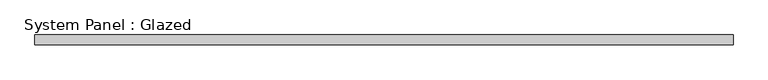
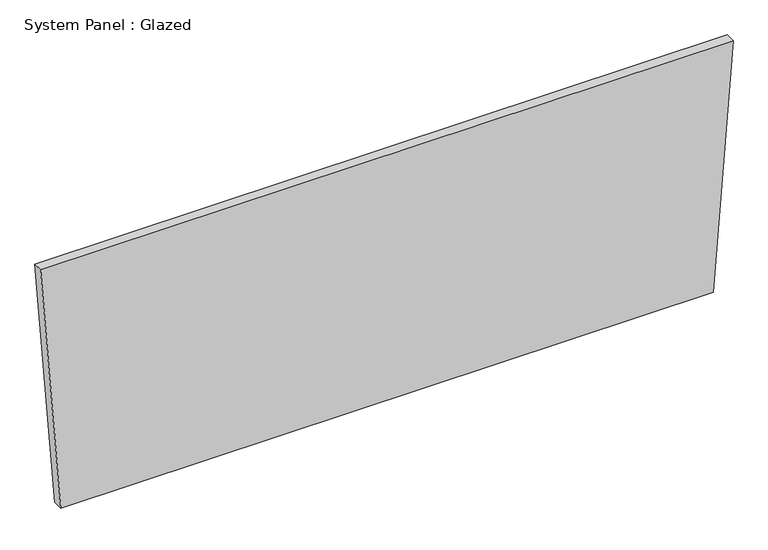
"""IFC4 building model written with IfcOpenShell, lengths in millimetres: plate geometry, System Panel : Glazed."""

import ifcopenshell
import ifcopenshell.guid

model = None  # the IFC model being written
_history = None  # IfcOwnerHistory: only IFC2X3 demands one
_inside = {}  # id of a spatial element -> (the spatial element, [elements in it])
_under = {}  # id of a project, library or spatial element -> (it, [spatial elements below it])
_declared = {}  # id of a project -> (the project, [libraries it declares])
_typed = {}  # id of a type object -> (the type object, [elements of that type])
_made_of = {}  # id of a material, layer set ... -> (it, [elements and type objects made of it])


def new_model(schema):
    """Start an empty IFC model of exactly this schema.

    Asked for "IFC4X3", IfcOpenShell would pick the latest addendum, in which some entities
    have other attributes; the version numbers below select the first issue.
    IFC2X3 requires an IfcOwnerHistory on every rooted entity: one is made here for all.
    """
    global model, _history
    if schema == "IFC4X3":
        model = ifcopenshell.file(schema_version=(4, 3, 0, 0))
    else:
        model = ifcopenshell.file(schema=schema)
    _inside.clear()
    _under.clear()
    _declared.clear()
    _typed.clear()
    _made_of.clear()
    _history = None
    if model.schema == "IFC2X3":
        org = make("IfcOrganization", Name="unknown")
        user = make(
            "IfcPersonAndOrganization",
            ThePerson=make("IfcPerson", FamilyName="unknown"),
            TheOrganization=org,
        )
        app = make(
            "IfcApplication",
            ApplicationDeveloper=org,
            Version="unknown",
            ApplicationFullName="unknown",
            ApplicationIdentifier="unknown",
        )
        _history = make(
            "IfcOwnerHistory",
            OwningUser=user,
            OwningApplication=app,
            ChangeAction="ADDED",
            CreationDate=0,
        )
    return model


def make(cls, **values):
    """One entity of the class cls with the attributes given. An attribute that is None is left unset."""
    return model.create_entity(
        cls, **{name: value for name, value in values.items() if value is not None}
    )


def rooted(cls, **values):
    """An entity with a GlobalId (a new one), such as an element, a storey or a relation."""
    return make(cls, GlobalId=ifcopenshell.guid.new(), OwnerHistory=_history, **values)


def si_unit(unit_type, name, prefix=None):
    """IfcSIUnit, for example si_unit("LENGTHUNIT", "METRE", prefix="MILLI")."""
    return make("IfcSIUnit", UnitType=unit_type, Prefix=prefix, Name=name)


def assignment(units):
    """IfcUnitAssignment: the units of a project."""
    return None if units is None else make("IfcUnitAssignment", Units=units)


def point(xyz):
    """IfcCartesianPoint."""
    return None if xyz is None else make("IfcCartesianPoint", Coordinates=xyz)


def direction(xyz):
    """IfcDirection."""
    return None if xyz is None else make("IfcDirection", DirectionRatios=xyz)


def frame(location, z_axis=None, x_axis=None):
    """IfcAxis2Placement3D, a coordinate frame: its origin and axes. An axis left out is left unset."""
    return make(
        "IfcAxis2Placement3D",
        Location=point(location),
        Axis=direction(z_axis),
        RefDirection=direction(x_axis),
    )


def origin():
    """The frame at (0, 0, 0) with its axes left unset."""
    return frame((0.0, 0.0, 0.0))


def place(relative_to, where):
    """IfcLocalPlacement: puts the frame where relative to a parent placement (None: the world)."""
    return make(
        "IfcLocalPlacement", PlacementRelTo=relative_to, RelativePlacement=where
    )


def context(
    kind, dimensions, precision=None, world=None, true_north=None, identifier=None
):
    """IfcGeometricRepresentationContext, for example the 3D "Model" context."""
    return make(
        "IfcGeometricRepresentationContext",
        ContextIdentifier=identifier,
        ContextType=kind,
        CoordinateSpaceDimension=dimensions,
        Precision=precision,
        WorldCoordinateSystem=world,
        TrueNorth=true_north,
    )


def project(units=None, contexts=None):
    """IfcProject with its units and contexts."""
    return rooted(
        "IfcProject",
        Name="project",
        RepresentationContexts=contexts,
        UnitsInContext=assignment(units),
    )


def spatial(cls, under=None, at=None, **own):
    """A site, building, storey or space (cls), placed at a placement, below another one or the project."""
    s = rooted(cls, ObjectPlacement=at, **own)
    if under is not None:
        _under.setdefault(under.id(), (under, []))[1].append(s)
    return s


def polyline(points):
    """IfcPolyline through the points."""
    return make("IfcPolyline", Points=[point(p) for p in points])


def outline(outer, holes=None, kind="AREA"):
    """IfcArbitraryClosedProfileDef: a profile drawn as a closed curve; with holes, ...WithVoids."""
    if holes is None:
        return make("IfcArbitraryClosedProfileDef", ProfileType=kind, OuterCurve=outer)
    return make(
        "IfcArbitraryProfileDefWithVoids",
        ProfileType=kind,
        OuterCurve=outer,
        InnerCurves=holes,
    )


def extrude(swept, where, along, depth):
    """IfcExtrudedAreaSolid: the profile swept, set in the frame where, extruded along a direction by depth."""
    return make(
        "IfcExtrudedAreaSolid",
        SweptArea=swept,
        Position=where,
        ExtrudedDirection=direction(along),
        Depth=depth,
    )


def shape(context_of_items, identifier, shape_type, items):
    """IfcShapeRepresentation: the items that make up one representation, for example the "Body"."""
    return make(
        "IfcShapeRepresentation",
        ContextOfItems=context_of_items,
        RepresentationIdentifier=identifier,
        RepresentationType=shape_type,
        Items=items,
    )


def source(mapping_origin, context_of_items, identifier, shape_type, items):
    """IfcRepresentationMap: a shape defined once, which mapped items show again and again."""
    return make(
        "IfcRepresentationMap",
        MappingOrigin=mapping_origin,
        MappedRepresentation=shape(context_of_items, identifier, shape_type, items),
    )


def transform(
    local_origin,
    x_axis=None,
    y_axis=None,
    z_axis=None,
    scale=None,
    scale2=None,
    scale3=None,
    uniform=True,
):
    """IfcCartesianTransformationOperator3D, or its non-uniform kind. x_axis, y_axis, z_axis: its Axis1, 2, 3."""
    if uniform:
        return make(
            "IfcCartesianTransformationOperator3D",
            Axis1=direction(x_axis),
            Axis2=direction(y_axis),
            LocalOrigin=point(local_origin),
            Scale=scale,
            Axis3=direction(z_axis),
        )
    return make(
        "IfcCartesianTransformationOperator3DnonUniform",
        Axis1=direction(x_axis),
        Axis2=direction(y_axis),
        LocalOrigin=point(local_origin),
        Scale=scale,
        Axis3=direction(z_axis),
        Scale2=scale2,
        Scale3=scale3,
    )


def mapped(mapping_source, mapping_target):
    """IfcMappedItem: shows the shape of a source again, moved by a transform."""
    return make(
        "IfcMappedItem", MappingSource=mapping_source, MappingTarget=mapping_target
    )


def made_of(thing, what):
    """Note that an element or type object is made of a material, layer set ...; save() writes the relation."""
    if what is not None:
        _made_of.setdefault(what.id(), (what, []))[1].append(thing)
    return thing


def element(
    cls,
    number,
    at=None,
    inside=None,
    cuts=None,
    type_object=None,
    material=None,
    context=None,
    identifier="Body",
    shape_type=None,
    held_by="IfcProductDefinitionShape",
    body=None,
    shapes=None,
    **own,
):
    """One element of the class cls, such as IfcWall. Its Tag is "e" and its number.

    at: its placement. inside: the storey or other place that contains it. cuts: it is an
    opening in that element (IfcRelVoidsElement). A single representation is given by context,
    identifier, shape_type and body (its items); several are given by shapes. held_by: the class
    of the entity that holds the representations. save() writes the other relations.
    """
    e = rooted(cls, Tag="e%d" % number, ObjectPlacement=at, **own)
    if body is not None:
        shapes = [shape(context, identifier, shape_type, body)]
    if shapes is not None:
        e.Representation = make(held_by, Representations=shapes)
    if inside is not None:
        _inside.setdefault(inside.id(), (inside, []))[1].append(e)
    if cuts is not None:
        rooted(
            "IfcRelVoidsElement", RelatingBuildingElement=cuts, RelatedOpeningElement=e
        )
    if type_object is not None:
        _typed.setdefault(type_object.id(), (type_object, []))[1].append(e)
    return made_of(e, material)


def aggregate(whole, parts):
    """IfcRelAggregates: a whole, such as a stair, and the parts it consists of."""
    return rooted("IfcRelAggregates", RelatingObject=whole, RelatedObjects=parts)


def save(model, path):
    """Write the relations noted so far, then the file.

    IfcRelAggregates (storeys below a building ...), IfcRelContainedInSpatialStructure (elements
    in a storey), IfcRelDefinesByType, IfcRelAssociatesMaterial and IfcRelDeclares: one each for
    every whole, place, type object, material and project.
    """
    for whole, parts in _under.values():
        aggregate(whole, parts)
    for where, things in _inside.values():
        rooted(
            "IfcRelContainedInSpatialStructure",
            RelatedElements=things,
            RelatingStructure=where,
        )
    for kind, things in _typed.values():
        rooted("IfcRelDefinesByType", RelatedObjects=things, RelatingType=kind)
    for what, things in _made_of.values():
        rooted("IfcRelAssociatesMaterial", RelatedObjects=things, RelatingMaterial=what)
    for by, libraries in _declared.values():
        rooted("IfcRelDeclares", RelatingContext=by, RelatedDefinitions=libraries)
    model.write(path)


def system_panel_glazed_00944ce8(model_context):
    return source(origin(), model_context, "Body", "SweptSolid", [
        extrude(outline(polyline([(0.0006302, -836.5724113), (0.0, 836.5723624), (663.7805586, 888.0914282), (663.7805586, -888.0914282), (0.0006302, -836.5724113)])), frame((0.0, 19.05, 0.0), z_axis=(0.0, 1.0, 0.0), x_axis=(0.0, 0.0, 1.0)), (0.0, 0.0, 1.0), 25.4),
    ])


if __name__ == "__main__":
    model = new_model("IFC4")
    model_context = context("Model", 3, world=origin())
    ifc_project = project(units=[si_unit("LENGTHUNIT", "METRE", prefix="MILLI")], contexts=[model_context])
    site = spatial("IfcSite", under=ifc_project)
    building = spatial("IfcBuilding", under=site)
    placement = place(None, origin())
    system_panel_glazed_shape = system_panel_glazed_00944ce8(model_context)
    element("IfcPlate", 1, ObjectType="System Panel : Glazed", at=placement, inside=building, context=model_context, shape_type="MappedRepresentation", body=[
        mapped(system_panel_glazed_shape, transform((0.0, 0.0, 0.0), x_axis=(1.0, 0.0, 0.0), y_axis=(0.0, 1.0, 0.0), z_axis=(0.0, 0.0, 1.0))),
    ])
    save(model, "model.ifc")
